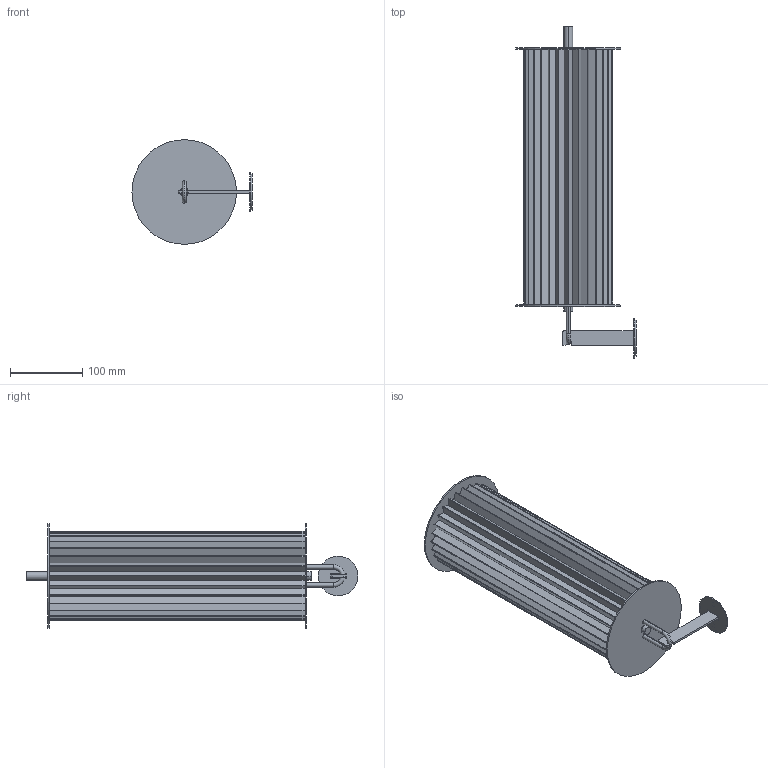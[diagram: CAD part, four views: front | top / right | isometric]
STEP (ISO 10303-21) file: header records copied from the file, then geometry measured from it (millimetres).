
FILE_DESCRIPTION (( 'STEP AP203' ), '1' );
FILE_NAME ('El_Torrent_Ori_OR.WH036_wall_lamp.STEP', '2026-09-30T07:31:30', ( '' ), ( '' ), 'SwSTEP 2.0', 'SolidWorks 2013', '' );
FILE_SCHEMA (( 'CONFIG_CONTROL_DESIGN' ));
Length unit declared in the file: millimetre
Products named in the file (8): TP477_Pantalla plisada ORI (24 plecs); ME060_A_Disc Ø145x2_pas 10_Barilla Ø6 50x25mm; MOS_Embellidor Ø55x1mm; GI111_Finalet Ø12x7_M10x1; GI55; GI463-Disc Ø145x2_pas 10; ME061_Ø50X100mm_Suport paret; El_Torrent_Ori_OR.WH036_wall_lamp
Assembly tree (7 placements, depth 2):
  El_Torrent_Ori_OR.WH036_wall_lamp
    ME060_A_Disc Ø145x2_pas 10_Barilla Ø6 50x25mm
    TP477_Pantalla plisada ORI (24 plecs)
    GI55
    GI111_Finalet Ø12x7_M10x1
    GI463-Disc Ø145x2_pas 10
    ME061_Ø50X100mm_Suport paret
    MOS_Embellidor Ø55x1mm
Bounding box: 166.5 x 460.5 x 145 mm (x, y, z)
Volume: 194705.9 mm3; surface area: 527969.5 mm2
Topology: 9 solids, 9 shells, 293 faces, 812 edges, 538 vertices
Faces by surface type: plane 174, cylinder 111, torus 4, cone 4
Entity records: 10264 total; most frequent: CARTESIAN_POINT 1653, DIRECTION 1650, ORIENTED_EDGE 1624, EDGE_CURVE 812, VECTOR 580, LINE 580, VERTEX_POINT 538, AXIS2_PLACEMENT_3D 535
